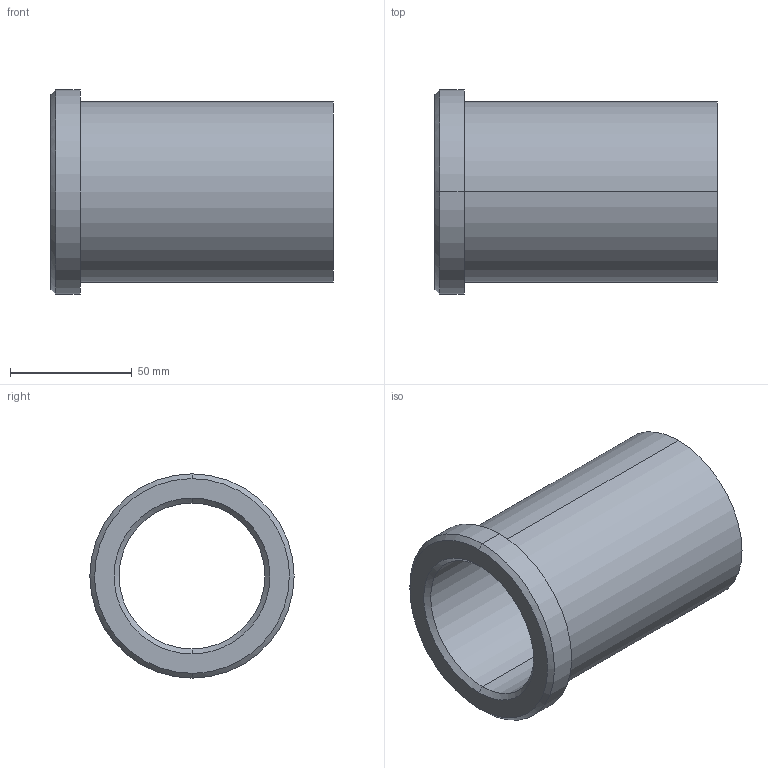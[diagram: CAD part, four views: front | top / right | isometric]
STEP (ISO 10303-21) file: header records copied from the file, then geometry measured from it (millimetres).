
FILE_DESCRIPTION(('CATIA V5 STEP Exchange'),'2;1');
FILE_NAME('C:\Users\Utente\Desktop\IO LAVORO\3D X SITO CF\X SITO\PLASTICA\353\353-60X116.stp','2021-05-14T17:58:37+00:00',('none'),('none'),'CATIA Version 5 Release 20 GA (IN-10)','CATIA V5 STEP AP203','none');
FILE_SCHEMA(('CONFIG_CONTROL_DESIGN'));
Length unit declared in the file: millimetre
Products named in the file (1): 353-60x116
Bounding box: 116 x 84 x 84 mm (x, y, z)
Volume: 184529.4 mm3; surface area: 53869.9 mm2
Topology: 1 solids, 1 shells, 15 faces, 48 edges, 36 vertices
Faces by surface type: cylinder 6, cone 4, plane 3, torus 2
Entity records: 680 total; most frequent: CARTESIAN_POINT 212, ORIENTED_EDGE 96, DIRECTION 70, EDGE_CURVE 48, AXIS2_PLACEMENT_3D 46, VERTEX_POINT 36, CIRCLE 30, EDGE_LOOP 18
